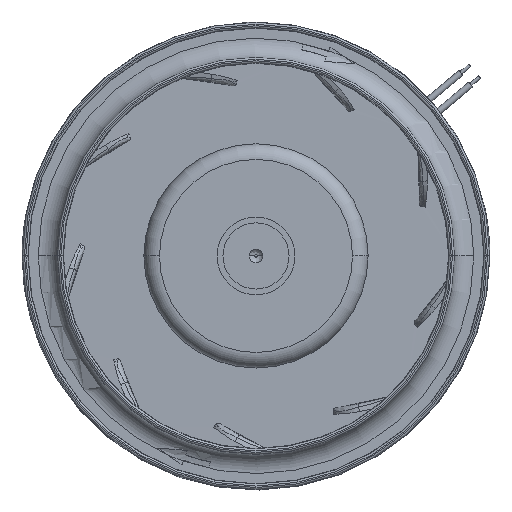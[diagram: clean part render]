
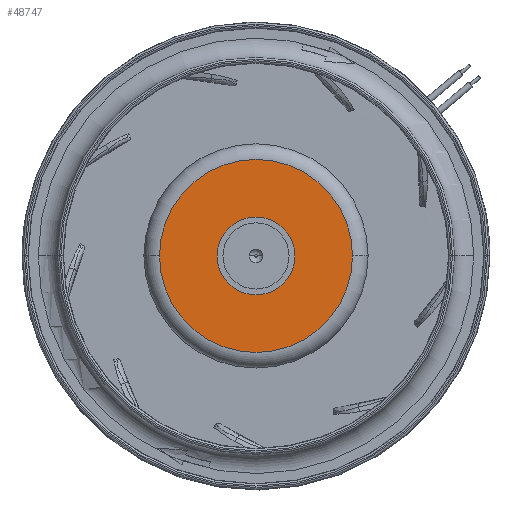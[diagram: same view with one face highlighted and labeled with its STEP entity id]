
A CAD part, top view. The second image highlights one B-rep face of the part: STEP entity #48747.
In plain terms, the highlighted planar face has unit normal (0, 0, 1).
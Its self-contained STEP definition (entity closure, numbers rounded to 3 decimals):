
#9172=CARTESIAN_POINT('',(0.,0.,37.15));
#9173=DIRECTION('',(0.,0.,1.));
#9174=DIRECTION('',(-1.,0.,0.));
#9175=AXIS2_PLACEMENT_3D('',#9172,#9173,#9174);
#9177=CARTESIAN_POINT('',(0.,0.,37.15));
#9178=DIRECTION('',(0.,0.,1.));
#9179=DIRECTION('',(1.,0.,0.));
#9180=AXIS2_PLACEMENT_3D('',#9177,#9178,#9179);
#9182=CARTESIAN_POINT('',(0.,0.,37.15));
#9183=DIRECTION('',(0.,0.,-1.));
#9184=DIRECTION('',(-1.,0.,0.));
#9185=AXIS2_PLACEMENT_3D('',#9182,#9183,#9184);
#9187=CARTESIAN_POINT('',(0.,0.,37.15));
#9188=DIRECTION('',(0.,0.,-1.));
#9189=DIRECTION('',(1.,0.,0.));
#9190=AXIS2_PLACEMENT_3D('',#9187,#9188,#9189);
#35596=CARTESIAN_POINT('',(-24.8,0.,37.15));
#35597=CARTESIAN_POINT('',(24.8,0.,37.15));
#35598=VERTEX_POINT('',#35596);
#35599=VERTEX_POINT('',#35597);
#35739=CARTESIAN_POINT('',(-10.,0.,37.15));
#35741=VERTEX_POINT('',#35739);
#35745=CARTESIAN_POINT('',(10.,0.,37.15));
#35746=VERTEX_POINT('',#35745);
#48732=CARTESIAN_POINT('',(0.,0.,37.15));
#48733=DIRECTION('',(0.,0.,1.));
#48734=DIRECTION('',(1.,0.,0.));
#48735=AXIS2_PLACEMENT_3D('',#48732,#48733,#48734);
#48736=PLANE('',#48735);
#48737=ORIENTED_EDGE('',*,*,#48686,.F.);
#48738=ORIENTED_EDGE('',*,*,#48708,.F.);
#48739=EDGE_LOOP('',(#48737,#48738));
#48740=FACE_OUTER_BOUND('',#48739,.F.);
#48742=ORIENTED_EDGE('',*,*,#48741,.F.);
#48744=ORIENTED_EDGE('',*,*,#48743,.F.);
#48745=EDGE_LOOP('',(#48742,#48744));
#48746=FACE_BOUND('',#48745,.F.);
#48747=ADVANCED_FACE('',(#48740,#48746),#48736,.T.);
#9176=CIRCLE('',#9175,24.8);
#9181=CIRCLE('',#9180,24.8);
#9186=CIRCLE('',#9185,10.);
#9191=CIRCLE('',#9190,10.);
#48686=EDGE_CURVE('',#35598,#35599,#9176,.T.);
#48708=EDGE_CURVE('',#35599,#35598,#9181,.T.);
#48741=EDGE_CURVE('',#35741,#35746,#9186,.T.);
#48743=EDGE_CURVE('',#35746,#35741,#9191,.T.);
